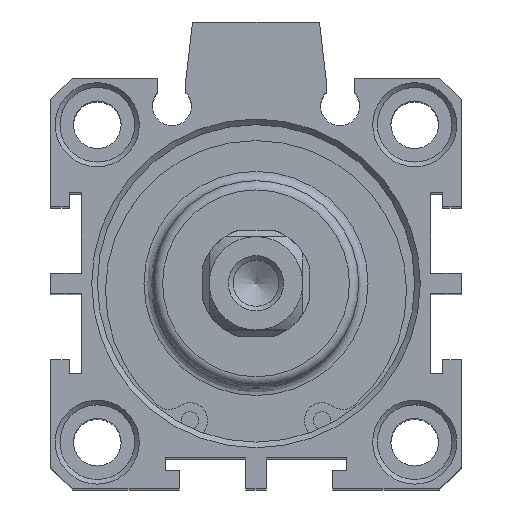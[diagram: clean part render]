
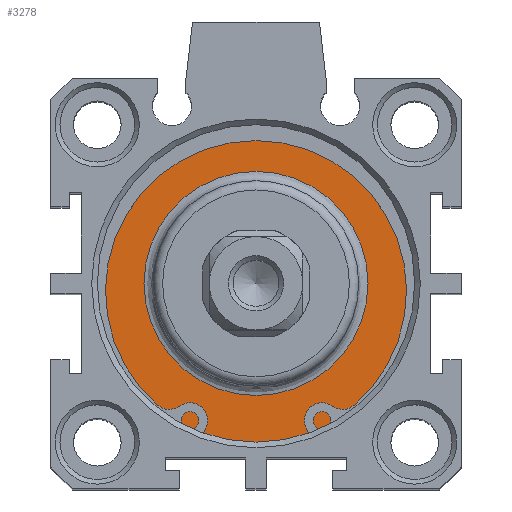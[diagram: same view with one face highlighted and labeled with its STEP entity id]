
A CAD part, top view. The second image highlights one B-rep face of the part: STEP entity #3278.
In plain terms, the highlighted planar face has unit normal (0, 0, 1).
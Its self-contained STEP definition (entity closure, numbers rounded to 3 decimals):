
#3227=CARTESIAN_POINT('',(-3.726,11.88,70.3));
#3228=VERTEX_POINT('',#3227);
#3229=CARTESIAN_POINT('',(-3.726,-0.12,70.3));
#3230=DIRECTION('',(0.0,0.0,1.0));
#3231=DIRECTION('',(0.0,-1.0,0.0));
#3232=AXIS2_PLACEMENT_3D('',#3229,#3230,#3231);
#3233=CIRCLE('',#3232,12.);
#3234=EDGE_CURVE('',#3228,#3228,#3233,.T.);
#3259=CARTESIAN_POINT('',(-3.726,13.88,70.3));
#3260=DIRECTION('',(0.0,0.0,1.0));
#3261=DIRECTION('',(1.0,0.0,0.0));
#3262=AXIS2_PLACEMENT_3D('',#3259,#3260,#3261);
#3263=PLANE('',#3262);
#3264=CARTESIAN_POINT('',(-3.726,16.88,70.3));
#3265=VERTEX_POINT('',#3264);
#3266=CARTESIAN_POINT('',(-3.726,-0.12,70.3));
#3267=DIRECTION('',(0.0,0.0,-1.0));
#3268=DIRECTION('',(0.0,1.0,0.0));
#3269=AXIS2_PLACEMENT_3D('',#3266,#3267,#3268);
#3270=CIRCLE('',#3269,17.);
#3271=EDGE_CURVE('',#3265,#3265,#3270,.T.);
#3272=ORIENTED_EDGE('',*,*,#3271,.F.);
#3273=EDGE_LOOP('',(#3272));
#3274=FACE_OUTER_BOUND('',#3273,.T.);
#3275=ORIENTED_EDGE('',*,*,#3234,.F.);
#3276=EDGE_LOOP('',(#3275));
#3277=FACE_BOUND('',#3276,.T.);
#3278=ADVANCED_FACE('',(#3274,#3277),#3263,.T.);
